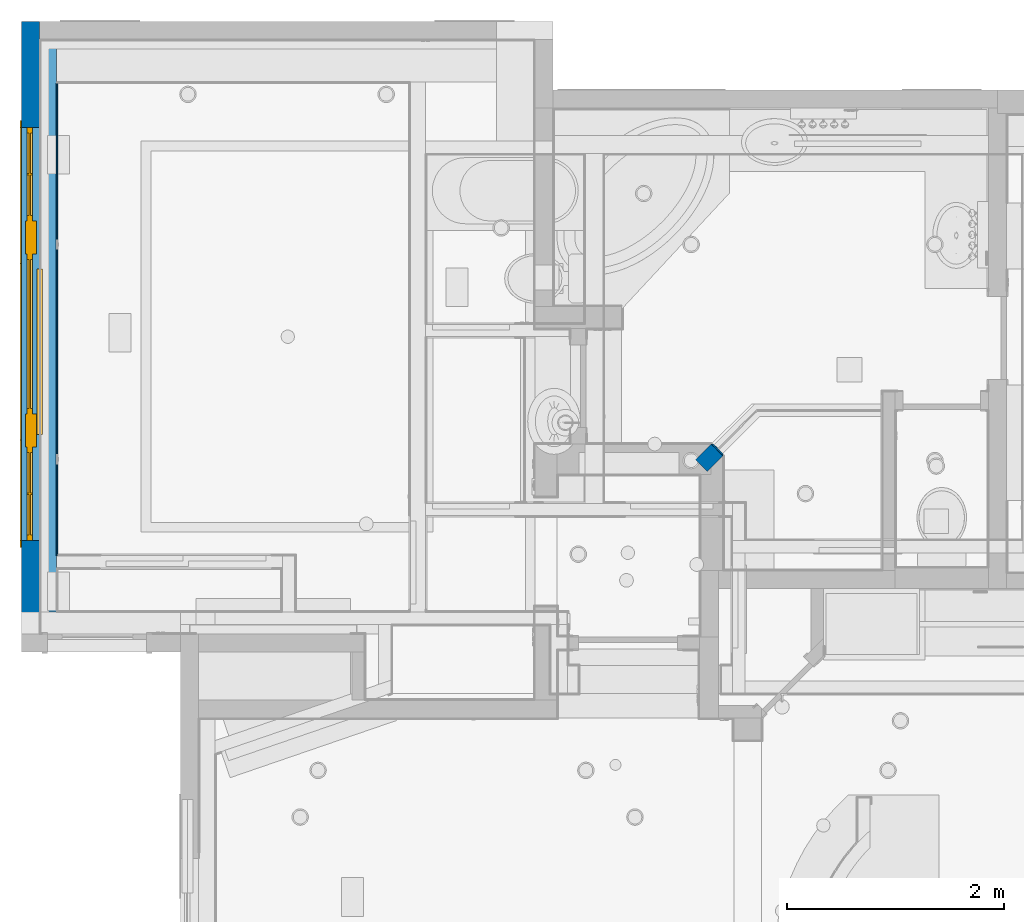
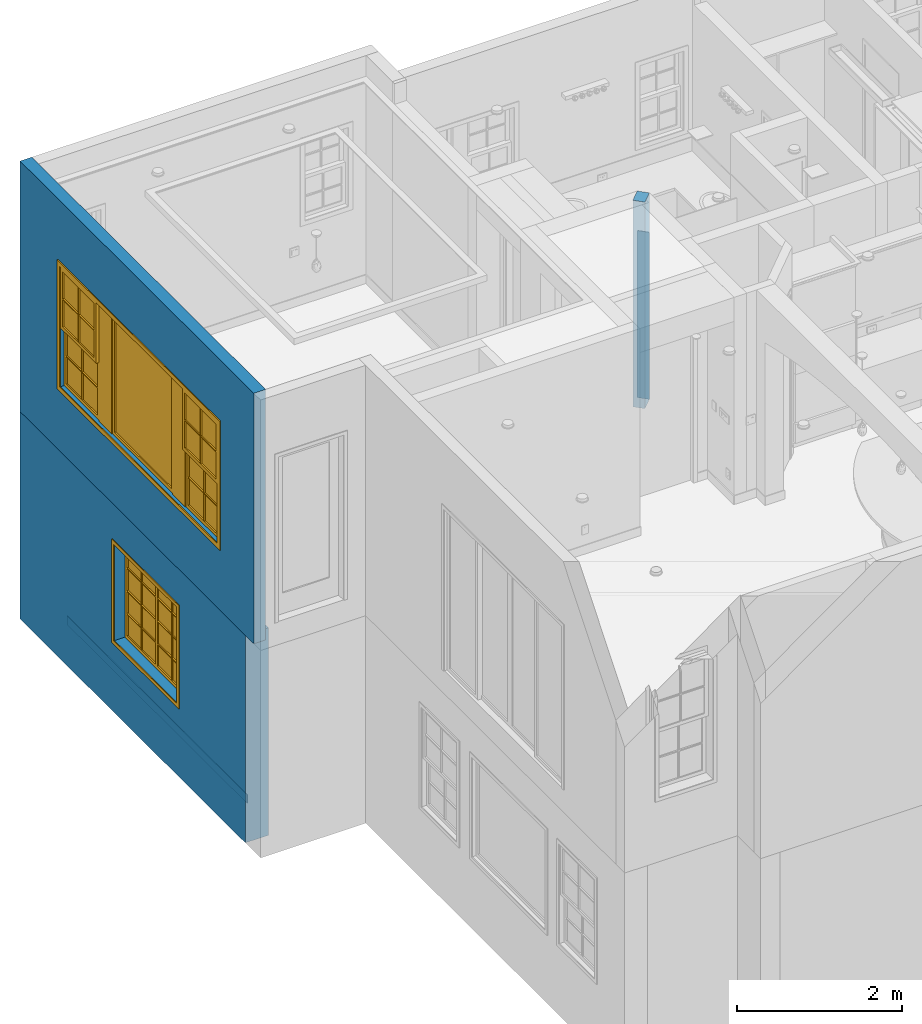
# One storey, part 10 of 81: 5 walls, 2 windows, 2 openings.
"""IFC2X3 building model written with IfcOpenShell, lengths in feet."""

from ifc_helpers import new_model, entity, si_unit, converted_unit, derived_unit, direction, frame, frame_2d, origin, origin_2d_with_axis, place, context, subcontext, project, spatial, polyline, rectangle, outline, extrude, clip, bounded_halfspace, source, transform, mapped, material, material_list, layer, layer_set, layer_usage, type_object, type_shapes, element, fill, save


model = new_model("IFC2X3")

# Units and contexts
model_context = context("Model", 3, precision=0.0001, world=origin(), true_north=direction((6.12303176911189e-17, 1.0)))
body_context = subcontext(model_context, "Body", "Model", "MODEL_VIEW")
ifc_project = project(units=[converted_unit("LENGTHUNIT", "FOOT", entity("IfcRatioMeasure", 0.3048), si_unit("LENGTHUNIT", "METRE"), dimensions=[1, 0, 0, 0, 0, 0, 0]), converted_unit("AREAUNIT", "SQUARE FOOT", entity("IfcRatioMeasure", 0.09290304), si_unit("AREAUNIT", "SQUARE_METRE"), dimensions=[2, 0, 0, 0, 0, 0, 0]), converted_unit("VOLUMEUNIT", "CUBIC FOOT", entity("IfcRatioMeasure", 0.028316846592), si_unit("VOLUMEUNIT", "CUBIC_METRE"), dimensions=[3, 0, 0, 0, 0, 0, 0]), converted_unit("PLANEANGLEUNIT", "DEGREE", entity("IfcRatioMeasure", 0.0174532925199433), si_unit("PLANEANGLEUNIT", "RADIAN"), dimensions=[0, 0, 0, 0, 0, 0, 0]), si_unit("MASSUNIT", "GRAM", prefix="KILO"), derived_unit("MASSDENSITYUNIT", [(si_unit("MASSUNIT", "GRAM", prefix="KILO"), 1), (si_unit("LENGTHUNIT", "METRE"), -3)]), derived_unit("MOMENTOFINERTIAUNIT", [(si_unit("LENGTHUNIT", "METRE"), 4)]), si_unit("TIMEUNIT", "SECOND"), si_unit("FREQUENCYUNIT", "HERTZ"), si_unit("THERMODYNAMICTEMPERATUREUNIT", "DEGREE_CELSIUS"), derived_unit("THERMALTRANSMITTANCEUNIT", [(si_unit("MASSUNIT", "GRAM", prefix="KILO"), 1), (si_unit("THERMODYNAMICTEMPERATUREUNIT", "KELVIN"), -1), (si_unit("TIMEUNIT", "SECOND"), -3)]), derived_unit("VOLUMETRICFLOWRATEUNIT", [(si_unit("LENGTHUNIT", "METRE"), 3), (si_unit("TIMEUNIT", "SECOND"), -1)]), si_unit("ELECTRICCURRENTUNIT", "AMPERE"), si_unit("ELECTRICVOLTAGEUNIT", "VOLT"), si_unit("POWERUNIT", "WATT"), si_unit("FORCEUNIT", "NEWTON"), si_unit("ILLUMINANCEUNIT", "LUX"), si_unit("LUMINOUSFLUXUNIT", "LUMEN"), si_unit("LUMINOUSINTENSITYUNIT", "CANDELA"), derived_unit("USERDEFINED", [(si_unit("MASSUNIT", "GRAM", prefix="KILO"), -1), (si_unit("LENGTHUNIT", "METRE"), -2), (si_unit("TIMEUNIT", "SECOND"), 3), (si_unit("LUMINOUSFLUXUNIT", "LUMEN"), 1)]), derived_unit("LINEARVELOCITYUNIT", [(si_unit("LENGTHUNIT", "METRE"), 1), (si_unit("TIMEUNIT", "SECOND"), -1)]), si_unit("PRESSUREUNIT", "PASCAL"), derived_unit("USERDEFINED", [(si_unit("LENGTHUNIT", "METRE"), -2), (si_unit("MASSUNIT", "GRAM", prefix="KILO"), 1), (si_unit("TIMEUNIT", "SECOND"), -2)]), derived_unit("LINEARFORCEUNIT", [(si_unit("MASSUNIT", "GRAM", prefix="KILO"), 1), (si_unit("LENGTHUNIT", "METRE"), 1), (si_unit("TIMEUNIT", "SECOND"), -2), (si_unit("LENGTHUNIT", "METRE"), -1)]), derived_unit("PLANARFORCEUNIT", [(si_unit("MASSUNIT", "GRAM", prefix="KILO"), 1), (si_unit("LENGTHUNIT", "METRE"), 1), (si_unit("TIMEUNIT", "SECOND"), -2), (si_unit("LENGTHUNIT", "METRE"), -2)])], contexts=[model_context])

# Site, building, storey
site_placement = place(None, origin())
site = spatial("IfcSite", under=ifc_project, at=site_placement, Name="Default", CompositionType="ELEMENT")
building_placement = place(site_placement, origin())
building = spatial("IfcBuilding", under=site, at=building_placement, CompositionType="ELEMENT")
storey_placement = place(building_placement, origin())
storey = spatial("IfcBuildingStorey", under=building, at=storey_placement, Name="First floor", CompositionType="ELEMENT", Elevation=0.0)

# Wall, opening, window
ifc_material_1 = material(Name="Default New Material")
ifc_layer_1 = layer(ifc_material_1, 0.541666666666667)
ifc_layer_set_1 = layer_set([ifc_layer_1], Name="Basic Wall:Wall_6.5\"")
ifc_layer_usage_1 = layer_usage(ifc_layer_set_1, "AXIS2", "NEGATIVE", 0.270833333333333)
wall_type_1 = type_object("IfcWallType", Name="Basic Wall:Wall_6.5\"", PredefinedType="STANDARD", material=ifc_layer_set_1)
wall_1_placement = place(storey_placement, frame((-21.5833333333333, 31.5833333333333, 9.54166666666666), z_axis=(0.0, 0.0, 1.0), x_axis=(0.0, 1.0, 0.0)))
wall_1 = element("IfcWallStandardCase", 1, at=wall_1_placement, inside=storey, type_object=wall_type_1, material=ifc_layer_usage_1, Name="Basic Wall:Wall_6.5\"", ObjectType="Basic Wall:Wall_6.5\"", context=body_context, shape_type="SweptSolid", body=[
    extrude(rectangle(XDim=18.5416666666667, YDim=0.541666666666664, at=frame_2d((9.27083333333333, 4.16333634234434e-16), x_axis=(-1.0, 0.0))), origin(), (0.0, 0.0, 1.0), 12.125),
])
opening_1_placement = place(wall_1_placement, frame((2.83333333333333, -0.270833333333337, 3.14583333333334)))
opening_1 = element("IfcOpeningElement", 2, at=opening_1_placement, cuts=wall_1, Name="Window_3:12'-6\" X 5'-10\":1", ObjectType="Opening", context=body_context, shape_type="SweptSolid", body=[
    extrude(rectangle(XDim=5.83333333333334, YDim=12.5, at=frame_2d((2.91666666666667, 6.24999999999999), x_axis=(-1.0, 0.0))), frame((0.0, 0.0, 0.0), z_axis=(0.0, 1.0, 0.0), x_axis=(0.0, 0.0, 1.0)), (0.0, 0.0, 1.0), 0.541666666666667),
])
ifc_material_2 = material(Name="Glass")
ifc_material_list_1 = material_list([ifc_material_2, ifc_material_1])
ifc_material_3 = material(Name="Sash")
ifc_material_list_2 = material_list([ifc_material_2, ifc_material_3, ifc_material_1, ifc_material_1])
window_style_1 = type_object("IfcWindowStyle", Name="Window_3:12'-6\" X 5'-10\"", ConstructionType="NOTDEFINED", OperationType="NOTDEFINED", ParameterTakesPrecedence=False, Sizeable=False, material=ifc_material_list_2)
shared_shape_1 = source(origin(), body_context, "Body", "SweptSolid", [
    extrude(rectangle(XDim=1.22916666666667, YDim=0.0435871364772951, at=origin_2d_with_axis()), frame((11.71875, 0.459293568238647, 4.35937499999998)), (0.0, 0.0, 1.0), 1.30729166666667),
    extrude(rectangle(XDim=1.22916666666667, YDim=0.0435871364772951, at=frame_2d((-4.44089209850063e-16, 0.0), x_axis=(1.0, 0.0))), frame((0.781250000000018, 0.459293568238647, 4.359375)), (0.0, 0.0, 1.0), 1.30729166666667),
    extrude(rectangle(XDim=1.22916666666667, YDim=0.0435871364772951, at=frame_2d((4.44089209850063e-16, 0.0), x_axis=(1.0, 0.0))), frame((2.05208333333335, 0.459293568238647, 4.35937499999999)), (0.0, 0.0, 1.0), 1.30729166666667),
    extrude(rectangle(XDim=1.22916666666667, YDim=0.0435871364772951, at=origin_2d_with_axis()), frame((10.4479166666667, 0.459293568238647, 4.35937499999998)), (0.0, 0.0, 1.0), 1.30729166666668),
    extrude(rectangle(XDim=1.22916666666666, YDim=0.0435871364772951, at=origin_2d_with_axis()), frame((11.71875, 0.459293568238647, 3.01041666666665)), (0.0, 0.0, 1.0), 1.30729166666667),
    extrude(rectangle(XDim=1.22916666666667, YDim=0.0435871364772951, at=origin_2d_with_axis()), frame((0.781250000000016, 0.459293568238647, 3.01041666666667)), (0.0, 0.0, 1.0), 1.30729166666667),
    extrude(rectangle(XDim=1.22916666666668, YDim=0.0435871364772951, at=origin_2d_with_axis()), frame((2.05208333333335, 0.459293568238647, 3.01041666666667)), (0.0, 0.0, 1.0), 1.30729166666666),
    extrude(rectangle(XDim=1.22916666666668, YDim=0.0435871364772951, at=origin_2d_with_axis()), frame((10.4479166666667, 0.459293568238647, 3.01041666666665)), (0.0, 0.0, 1.0), 1.30729166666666),
    extrude(outline(polyline([(-1.49479166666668, -1.41666666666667), (1.49479166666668, -1.41666666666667), (1.49479166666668, 1.41666666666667), (-1.49479166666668, 1.41666666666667), (-1.49479166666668, -1.41666666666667)]), holes=[polyline([(-0.0208333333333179, -0.0208333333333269), (-0.0208333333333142, -1.25), (-1.32812499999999, -1.25), (-1.32812499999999, -0.0208333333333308), (-0.0208333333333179, -0.0208333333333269)]), polyline([(-1.32812499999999, 0.0208333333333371), (-1.32812499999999, 1.25000000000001), (-0.0208333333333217, 1.25000000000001), (-0.020833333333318, 0.0208333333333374), (-1.32812499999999, 0.0208333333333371)]), polyline([(1.32812500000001, 0.0208333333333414), (0.0208333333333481, 0.0208333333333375), (0.0208333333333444, 1.25000000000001), (1.32812500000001, 1.25000000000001), (1.32812500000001, 0.0208333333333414)]), polyline([(0.0208333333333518, -1.25), (0.0208333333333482, -0.0208333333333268), (1.32812500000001, -0.0208333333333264), (1.32812500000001, -1.25), (0.0208333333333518, -1.25)])]), frame((11.0833333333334, 0.541666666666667, 4.33854166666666), z_axis=(0.0, -1.0, 0.0), x_axis=(0.0, 0.0, -1.0)), (0.0, 0.0, 1.0), 0.166666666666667),
    extrude(outline(polyline([(-1.41666666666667, -1.49479166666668), (1.41666666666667, -1.49479166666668), (1.41666666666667, 1.49479166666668), (-1.41666666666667, 1.49479166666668), (-1.41666666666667, -1.49479166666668)]), holes=[polyline([(0.0208333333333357, -1.32812499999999), (0.0208333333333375, -0.0208333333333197), (1.25000000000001, -0.0208333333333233), (1.25000000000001, -1.32812499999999), (0.0208333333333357, -1.32812499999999)]), polyline([(0.0208333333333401, 1.32812500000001), (1.25000000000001, 1.32812500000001), (1.25000000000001, 0.0208333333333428), (0.0208333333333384, 0.0208333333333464), (0.0208333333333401, 1.32812500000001)]), polyline([(-1.25, 0.0208333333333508), (-1.25, 1.32812500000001), (-0.0208333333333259, 1.32812500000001), (-0.0208333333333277, 0.0208333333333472), (-1.25, 0.0208333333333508)]), polyline([(-0.0208333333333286, -0.0208333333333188), (-0.0208333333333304, -1.32812499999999), (-1.25, -1.32812499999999), (-1.25, -0.0208333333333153), (-0.0208333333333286, -0.0208333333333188)])]), frame((1.41666666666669, 0.541666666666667, 4.33854166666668), z_axis=(0.0, -1.0, 0.0), x_axis=(-1.0, 0.0, 0.0)), (0.0, 0.0, 1.0), 0.166666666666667),
    extrude(rectangle(XDim=1.00000000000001, YDim=0.333333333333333, at=origin_2d_with_axis()), frame((3.33333333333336, 0.25, 0.0)), (0.0, 0.0, 1.0), 5.83333333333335),
    extrude(rectangle(XDim=1.00000000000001, YDim=0.333333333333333, at=origin_2d_with_axis()), frame((9.16666666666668, 0.25, 0.0)), (0.0, 0.0, 1.0), 5.83333333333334),
    extrude(rectangle(XDim=1.22916666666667, YDim=0.0416666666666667, at=origin_2d_with_axis()), frame((11.71875, 0.291666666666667, 1.52604166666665), z_axis=(0.0, 0.0, 1.0), x_axis=(-1.0, 0.0, 0.0)), (0.0, 0.0, 1.0), 1.31770833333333),
    extrude(rectangle(XDim=1.22916666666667, YDim=0.0416666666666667, at=frame_2d((-8.88178419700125e-16, 0.0), x_axis=(1.0, 0.0))), frame((0.781250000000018, 0.291666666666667, 0.166666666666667), z_axis=(0.0, 0.0, 1.0), x_axis=(-1.0, 0.0, 0.0)), (0.0, 0.0, 1.0), 1.31770833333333),
    extrude(rectangle(XDim=1.22916666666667, YDim=0.0416666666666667, at=origin_2d_with_axis()), frame((2.05208333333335, 0.291666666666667, 0.166666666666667), z_axis=(0.0, 0.0, 1.0), x_axis=(-1.0, 0.0, 0.0)), (0.0, 0.0, 1.0), 1.31770833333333),
    extrude(rectangle(XDim=1.22916666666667, YDim=0.0416666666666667, at=origin_2d_with_axis()), frame((11.71875, 0.291666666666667, 0.16666666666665), z_axis=(0.0, 0.0, 1.0), x_axis=(-1.0, 0.0, 0.0)), (0.0, 0.0, 1.0), 1.31770833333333),
    extrude(rectangle(XDim=1.22916666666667, YDim=0.0416666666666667, at=origin_2d_with_axis()), frame((10.4479166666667, 0.291666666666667, 0.166666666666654), z_axis=(0.0, 0.0, 1.0), x_axis=(-1.0, 0.0, 0.0)), (0.0, 0.0, 1.0), 1.31770833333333),
    extrude(rectangle(XDim=4.49999999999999, YDim=0.0416666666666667, at=origin_2d_with_axis()), frame((6.25000000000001, 0.291666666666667, 0.166666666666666), z_axis=(0.0, 0.0, 1.0), x_axis=(-1.0, 0.0, 0.0)), (0.0, 0.0, 1.0), 5.5),
    extrude(rectangle(XDim=1.22916666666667, YDim=0.0416666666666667, at=frame_2d((-4.44089209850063e-16, 0.0), x_axis=(1.0, 0.0))), frame((0.78125000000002, 0.291666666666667, 1.52604166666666), z_axis=(0.0, 0.0, 1.0), x_axis=(-1.0, 0.0, 0.0)), (0.0, 0.0, 1.0), 1.31770833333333),
    extrude(rectangle(XDim=1.22916666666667, YDim=0.0416666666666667, at=frame_2d((2.22044604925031e-16, 0.0), x_axis=(1.0, 0.0))), frame((2.05208333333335, 0.291666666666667, 1.52604166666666), z_axis=(0.0, 0.0, 1.0), x_axis=(-1.0, 0.0, 0.0)), (0.0, 0.0, 1.0), 1.31770833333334),
    extrude(rectangle(XDim=1.22916666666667, YDim=0.0416666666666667, at=origin_2d_with_axis()), frame((10.4479166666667, 0.291666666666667, 1.52604166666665), z_axis=(0.0, 0.0, 1.0), x_axis=(-1.0, 0.0, 0.0)), (0.0, 0.0, 1.0), 1.31770833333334),
    extrude(outline(polyline([(-1.50520833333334, -1.41666666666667), (1.50520833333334, -1.41666666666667), (1.50520833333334, 1.41666666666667), (-1.50520833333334, 1.41666666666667), (-1.50520833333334, -1.41666666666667)]), holes=[polyline([(1.33854166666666, 0.0208333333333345), (0.0208333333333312, 0.020833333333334), (0.020833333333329, 1.25), (1.33854166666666, 1.25), (1.33854166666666, 0.0208333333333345)]), polyline([(-1.33854166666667, 0.0208333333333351), (-1.33854166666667, 1.25), (-0.020833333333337, 1.25), (-0.0208333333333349, 0.0208333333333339), (-1.33854166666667, 0.0208333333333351)]), polyline([(-0.0208333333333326, -1.25), (-1.33854166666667, -1.25), (-1.33854166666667, -0.0208333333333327), (-0.0208333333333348, -0.0208333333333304), (-0.0208333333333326, -1.25)]), polyline([(0.0208333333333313, -0.0208333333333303), (1.33854166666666, -0.0208333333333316), (1.33854166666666, -1.25), (0.0208333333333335, -1.25), (0.0208333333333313, -0.0208333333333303)])]), frame((11.0833333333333, 0.375, 1.50520833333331), z_axis=(0.0, -1.0, 0.0), x_axis=(0.0, 0.0, -1.0)), (0.0, 0.0, 1.0), 0.166666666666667),
    extrude(outline(polyline([(-1.41666666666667, -1.50520833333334), (1.41666666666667, -1.50520833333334), (1.41666666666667, 1.50520833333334), (-1.41666666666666, 1.50520833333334), (-1.41666666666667, -1.50520833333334)]), holes=[polyline([(-0.0208333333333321, 0.0208333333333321), (-1.25, 0.0208333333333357), (-1.25, 1.33854166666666), (-0.0208333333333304, 1.33854166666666), (-0.0208333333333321, 0.0208333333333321)]), polyline([(0.0208333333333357, 1.33854166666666), (1.25, 1.33854166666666), (1.25, 0.0208333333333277), (0.0208333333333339, 0.0208333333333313), (0.0208333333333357, 1.33854166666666)]), polyline([(0.0208333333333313, -1.33854166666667), (0.020833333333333, -0.0208333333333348), (1.25, -0.0208333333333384), (1.25, -1.33854166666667), (0.0208333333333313, -1.33854166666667)]), polyline([(-1.25, -0.0208333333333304), (-0.020833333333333, -0.0208333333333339), (-0.0208333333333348, -1.33854166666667), (-1.25, -1.33854166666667), (-1.25, -0.0208333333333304)])]), frame((1.41666666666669, 0.375, 1.50520833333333), z_axis=(0.0, -1.0, 0.0), x_axis=(-1.0, 0.0, 0.0)), (0.0, 0.0, 1.0), 0.166666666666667),
    extrude(outline(polyline([(-2.41666666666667, -2.91666666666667), (2.41666666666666, -2.91666666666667), (2.41666666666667, 2.91666666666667), (-2.41666666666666, 2.91666666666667), (-2.41666666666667, -2.91666666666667)]), holes=[polyline([(2.25, 2.75), (2.24999999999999, -2.75), (-2.25, -2.75), (-2.24999999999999, 2.75), (2.25, 2.75)])]), frame((6.25000000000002, 0.375, 2.91666666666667), z_axis=(0.0, -1.0, 0.0), x_axis=(1.0, 0.0, 0.0)), (0.0, 0.0, 1.0), 0.166666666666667),
    extrude(outline(polyline([(-6.45833333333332, -3.125), (6.45833333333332, -3.125), (6.45833333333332, 3.125), (-6.45833333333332, 3.125), (-6.45833333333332, -3.125)]), holes=[polyline([(-6.24999999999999, -2.91666666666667), (-6.24999999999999, 2.91666666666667), (6.24999999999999, 2.91666666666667), (6.24999999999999, -2.91666666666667), (-6.24999999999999, -2.91666666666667)])]), frame((6.25000000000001, 0.0, 2.91666666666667), z_axis=(0.0, -1.0, 0.0), x_axis=(1.0, 0.0, 0.0)), (0.0, 0.0, 1.0), 0.0416666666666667),
    extrude(outline(polyline([(-6.45833333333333, -3.125), (6.45833333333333, -3.125), (6.45833333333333, 3.125), (-6.45833333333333, 3.125), (-6.45833333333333, -3.125)]), holes=[polyline([(-6.24999999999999, -2.91666666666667), (-6.24999999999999, 2.91666666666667), (6.24999999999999, 2.91666666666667), (6.24999999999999, -2.91666666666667), (-6.24999999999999, -2.91666666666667)])]), frame((6.25000000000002, 0.583333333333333, 2.91666666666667), z_axis=(0.0, -1.0, 0.0), x_axis=(1.0, 0.0, 0.0)), (0.0, 0.0, 1.0), 0.0416666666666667),
])
type_shapes(window_style_1, [shared_shape_1])
window_1_placement = place(opening_1_placement, origin())
window_1 = element("IfcWindow", 3, at=window_1_placement, inside=storey, type_object=window_style_1, material=ifc_material_list_1, Name="Window_3:12'-6\" X 5'-10\"", ObjectType="Window_3:12'-6\" X 5'-10\"", OverallHeight=5.83333333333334, OverallWidth=12.5, context=body_context, shape_type="MappedRepresentation", body=[
    mapped(shared_shape_1, transform((0.0, 0.0, 0.0), scale=1.0)),
])
fill(opening_1, window_1)

# Wall
ifc_layer_2 = layer(ifc_material_1, 0.666666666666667)
ifc_layer_set_2 = layer_set([ifc_layer_2], Name="Basic Wall:Wall_8\"")
ifc_layer_usage_2 = layer_usage(ifc_layer_set_2, "AXIS2", "POSITIVE", -0.333333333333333)
wall_type_2 = type_object("IfcWallType", Name="Basic Wall:Wall_8\"", PredefinedType="STANDARD", material=ifc_layer_set_2)
wall_2_placement = place(storey_placement, frame((-1.21486892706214, 37.0976310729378, 10.6666666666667), z_axis=(0.0, 0.0, 1.0), x_axis=(0.707106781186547, -0.707106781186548, 0.0)))
element("IfcWallStandardCase", 4, at=wall_2_placement, inside=storey, type_object=wall_type_2, material=ifc_layer_usage_2, Name="Basic Wall:Wall_8\"", ObjectType="Basic Wall:Wall_8\"", context=body_context, shape_type="SweptSolid", body=[
    extrude(rectangle(XDim=0.500867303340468, YDim=0.666666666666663, at=frame_2d((0.250433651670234, 2.4980018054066e-16), x_axis=(-1.0, 0.0))), origin(), (0.0, 0.0, 1.0), 10.0),
])

# Wall, opening, window
ifc_layer_3 = layer(ifc_material_1, 1.0625)
ifc_layer_set_3 = layer_set([ifc_layer_3], Name="Basic Wall:Wall_1' 3/4\"")
ifc_layer_usage_3 = layer_usage(ifc_layer_set_3, "AXIS2", "NEGATIVE", 0.53125)
wall_type_3 = type_object("IfcWallType", Name="Basic Wall:Wall_1' 3/4\"", PredefinedType="STANDARD", material=ifc_layer_set_3)
wall_3_placement = place(storey_placement, frame((-21.3229166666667, 32.25, -0.5), z_axis=(0.0, 0.0, 1.0), x_axis=(0.0, 1.0, 0.0)))
wall_3 = element("IfcWallStandardCase", 5, at=wall_3_placement, inside=storey, type_object=wall_type_3, material=ifc_layer_usage_3, Name="Basic Wall:Wall_1' 3/4\"", ObjectType="Basic Wall:Wall_1' 3/4\"", context=body_context, shape_type="SweptSolid", body=[
    extrude(rectangle(XDim=17.875, YDim=1.0625, at=frame_2d((8.93750000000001, -1.66533453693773e-16), x_axis=(-1.0, 0.0))), origin(), (0.0, 0.0, 1.0), 10.0416666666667),
])
opening_2_placement = place(wall_3_placement, frame((10.375, 0.531249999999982, 3.5)))
opening_2 = element("IfcOpeningElement", 6, at=opening_2_placement, cuts=wall_3, Name="Window_7:5'-0\" X 4'-8\":1", ObjectType="Opening", context=body_context, shape_type="SweptSolid", body=[
    extrude(rectangle(XDim=4.66666666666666, YDim=5.0, at=frame_2d((2.33333333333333, 2.5), x_axis=(-1.0, 0.0))), frame((0.0, 0.0, 0.0), z_axis=(0.0, -1.0, 0.0), x_axis=(0.0, 0.0, 1.0)), (0.0, 0.0, 1.0), 1.0625),
])
ifc_material_list_3 = material_list([ifc_material_2, ifc_material_1])
ifc_material_list_4 = material_list([ifc_material_2, ifc_material_1, ifc_material_1])
window_style_2 = type_object("IfcWindowStyle", Name="Window_7:5'-0\" X 4'-8\"", ConstructionType="NOTDEFINED", OperationType="NOTDEFINED", ParameterTakesPrecedence=False, Sizeable=False, material=ifc_material_list_4)
shared_shape_2 = source(origin(), body_context, "Body", "SweptSolid", [
    extrude(rectangle(XDim=0.0416666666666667, YDim=1.10416666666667, at=origin_2d_with_axis()), frame((4.28124999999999, 0.552083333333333, 3.45833333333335), z_axis=(0.0, 0.0, 1.0), x_axis=(0.0, 1.0, 0.0)), (0.0, 0.0, 1.0), 1.04166666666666),
    extrude(rectangle(XDim=0.0416666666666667, YDim=1.10416666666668, at=origin_2d_with_axis()), frame((4.28124999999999, 0.552083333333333, 0.166666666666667), z_axis=(0.0, 0.0, 1.0), x_axis=(0.0, 1.0, 0.0)), (0.0, 0.0, 1.0), 1.04166666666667),
    extrude(rectangle(XDim=0.0416666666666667, YDim=1.10416666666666, at=origin_2d_with_axis()), frame((3.13541666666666, 0.552083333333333, 0.166666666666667), z_axis=(0.0, 0.0, 1.0), x_axis=(0.0, 1.0, 0.0)), (0.0, 0.0, 1.0), 1.04166666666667),
    extrude(rectangle(XDim=0.0416666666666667, YDim=1.10416666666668, at=origin_2d_with_axis()), frame((1.86458333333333, 0.552083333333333, 0.166666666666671), z_axis=(0.0, 0.0, 1.0), x_axis=(0.0, 1.0, 0.0)), (0.0, 0.0, 1.0), 1.04166666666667),
    extrude(rectangle(XDim=0.0416666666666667, YDim=1.10416666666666, at=origin_2d_with_axis()), frame((0.718749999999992, 0.552083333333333, 0.166666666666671), z_axis=(0.0, 0.0, 1.0), x_axis=(0.0, 1.0, 0.0)), (0.0, 0.0, 1.0), 1.04166666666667),
    extrude(rectangle(XDim=0.0416666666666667, YDim=1.10416666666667, at=origin_2d_with_axis()), frame((0.718749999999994, 0.552083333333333, 3.45833333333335), z_axis=(0.0, 0.0, 1.0), x_axis=(0.0, 1.0, 0.0)), (0.0, 0.0, 1.0), 1.04166666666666),
    extrude(rectangle(XDim=0.0416666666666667, YDim=1.10416666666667, at=origin_2d_with_axis()), frame((4.28124999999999, 0.552083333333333, 2.35416666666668), z_axis=(0.0, 0.0, 1.0), x_axis=(0.0, 1.0, 0.0)), (0.0, 0.0, 1.0), 1.0625),
    extrude(rectangle(XDim=0.0416666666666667, YDim=1.10416666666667, at=origin_2d_with_axis()), frame((4.28124999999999, 0.552083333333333, 1.25), z_axis=(0.0, 0.0, 1.0), x_axis=(0.0, 1.0, 0.0)), (0.0, 0.0, 1.0), 1.06250000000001),
    extrude(rectangle(XDim=0.0416666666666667, YDim=1.10416666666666, at=origin_2d_with_axis()), frame((3.13541666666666, 0.552083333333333, 1.25000000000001), z_axis=(0.0, 0.0, 1.0), x_axis=(0.0, 1.0, 0.0)), (0.0, 0.0, 1.0), 1.06250000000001),
    extrude(rectangle(XDim=0.0416666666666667, YDim=1.10416666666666, at=origin_2d_with_axis()), frame((3.13541666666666, 0.552083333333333, 2.35416666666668), z_axis=(0.0, 0.0, 1.0), x_axis=(0.0, 1.0, 0.0)), (0.0, 0.0, 1.0), 1.0625),
    extrude(rectangle(XDim=0.0416666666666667, YDim=1.10416666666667, at=origin_2d_with_axis()), frame((3.13541666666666, 0.552083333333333, 3.45833333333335), z_axis=(0.0, 0.0, 1.0), x_axis=(0.0, 1.0, 0.0)), (0.0, 0.0, 1.0), 1.04166666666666),
    extrude(rectangle(XDim=0.0416666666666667, YDim=1.10416666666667, at=origin_2d_with_axis()), frame((1.86458333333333, 0.552083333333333, 3.45833333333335), z_axis=(0.0, 0.0, 1.0), x_axis=(0.0, 1.0, 0.0)), (0.0, 0.0, 1.0), 1.04166666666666),
    extrude(rectangle(XDim=0.0416666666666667, YDim=1.10416666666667, at=origin_2d_with_axis()), frame((1.86458333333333, 0.552083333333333, 2.35416666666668), z_axis=(0.0, 0.0, 1.0), x_axis=(0.0, 1.0, 0.0)), (0.0, 0.0, 1.0), 1.0625),
    extrude(rectangle(XDim=0.0416666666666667, YDim=1.10416666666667, at=origin_2d_with_axis()), frame((1.86458333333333, 0.552083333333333, 1.25000000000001), z_axis=(0.0, 0.0, 1.0), x_axis=(0.0, 1.0, 0.0)), (0.0, 0.0, 1.0), 1.06250000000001),
    extrude(rectangle(XDim=0.0416666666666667, YDim=1.10416666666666, at=origin_2d_with_axis()), frame((0.718749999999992, 0.552083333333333, 1.25000000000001), z_axis=(0.0, 0.0, 1.0), x_axis=(0.0, 1.0, 0.0)), (0.0, 0.0, 1.0), 1.06250000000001),
    extrude(rectangle(XDim=0.0416666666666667, YDim=1.10416666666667, at=origin_2d_with_axis()), frame((0.718749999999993, 0.552083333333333, 2.35416666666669), z_axis=(0.0, 0.0, 1.0), x_axis=(0.0, 1.0, 0.0)), (0.0, 0.0, 1.0), 1.0625),
    extrude(outline(polyline([(-2.5, -2.33333333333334), (2.5, -2.33333333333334), (2.5, 2.33333333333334), (-2.5, 2.33333333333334), (-2.5, -2.33333333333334)]), holes=[polyline([(1.22916666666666, 2.16666666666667), (2.33333333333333, 2.16666666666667), (2.33333333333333, 1.12500000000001), (1.22916666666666, 1.125), (1.22916666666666, 2.16666666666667)]), polyline([(1.18749999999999, 1.125), (0.083333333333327, 1.125), (0.083333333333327, 2.16666666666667), (1.18749999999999, 2.16666666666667), (1.18749999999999, 1.125)]), polyline([(-1.18750000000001, 2.16666666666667), (-0.0833333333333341, 2.16666666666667), (-0.0833333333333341, 1.125), (-1.18750000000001, 1.125), (-1.18750000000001, 2.16666666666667)]), polyline([(-1.22916666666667, 1.125), (-2.33333333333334, 1.125), (-2.33333333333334, 2.16666666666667), (-1.22916666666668, 2.16666666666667), (-1.22916666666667, 1.125)]), polyline([(1.22916666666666, -2.16666666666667), (1.22916666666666, -1.12500000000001), (2.33333333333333, -1.12500000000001), (2.33333333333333, -2.16666666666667), (1.22916666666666, -2.16666666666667)]), polyline([(0.083333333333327, -1.12500000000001), (1.18749999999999, -1.12500000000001), (1.1875, -2.16666666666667), (0.083333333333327, -2.16666666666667), (0.083333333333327, -1.12500000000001)]), polyline([(1.22916666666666, -0.0208333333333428), (2.33333333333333, -0.0208333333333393), (2.33333333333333, -1.08333333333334), (1.22916666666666, -1.08333333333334), (1.22916666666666, -0.0208333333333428)]), polyline([(1.22916666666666, 1.08333333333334), (2.33333333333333, 1.08333333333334), (2.33333333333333, 0.0208333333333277), (1.22916666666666, 0.0208333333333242), (1.22916666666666, 1.08333333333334)]), polyline([(0.083333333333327, 1.08333333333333), (1.18749999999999, 1.08333333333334), (1.18749999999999, 0.0208333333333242), (0.083333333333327, 0.0208333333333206), (0.083333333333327, 1.08333333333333)]), polyline([(0.083333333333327, -0.0208333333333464), (1.18749999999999, -0.0208333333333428), (1.18749999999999, -1.08333333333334), (0.083333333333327, -1.08333333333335), (0.083333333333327, -0.0208333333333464)]), polyline([(-1.1875, -2.16666666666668), (-1.1875, -1.12500000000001), (-0.0833333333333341, -1.12500000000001), (-0.0833333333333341, -2.16666666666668), (-1.1875, -2.16666666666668)]), polyline([(-2.33333333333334, -1.12500000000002), (-1.22916666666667, -1.12500000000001), (-1.22916666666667, -2.16666666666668), (-2.33333333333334, -2.16666666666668), (-2.33333333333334, -1.12500000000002)]), polyline([(-1.18750000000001, -0.0208333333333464), (-0.0833333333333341, -0.0208333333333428), (-0.0833333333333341, -1.08333333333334), (-1.1875, -1.08333333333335), (-1.18750000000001, -0.0208333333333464)]), polyline([(-1.18750000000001, 1.08333333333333), (-0.0833333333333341, 1.08333333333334), (-0.0833333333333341, 0.0208333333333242), (-1.18750000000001, 0.0208333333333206), (-1.18750000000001, 1.08333333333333)]), polyline([(-2.33333333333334, 1.08333333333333), (-1.22916666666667, 1.08333333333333), (-1.22916666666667, 0.0208333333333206), (-2.33333333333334, 0.0208333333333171), (-2.33333333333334, 1.08333333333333)]), polyline([(-2.33333333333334, -0.0208333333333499), (-1.22916666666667, -0.0208333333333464), (-1.22916666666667, -1.08333333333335), (-2.33333333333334, -1.08333333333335), (-2.33333333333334, -0.0208333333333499)])]), frame((2.5, 0.46875, 2.33333333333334), z_axis=(0.0, 1.0, 0.0), x_axis=(1.0, 0.0, 0.0)), (0.0, 0.0, 1.0), 0.166666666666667),
    extrude(outline(polyline([(-2.66666666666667, -2.5), (2.66666666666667, -2.5), (2.66666666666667, 2.5), (-2.66666666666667, 2.5), (-2.66666666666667, -2.5)]), holes=[polyline([(-2.5, -2.33333333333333), (-2.5, 2.33333333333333), (2.5, 2.33333333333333), (2.5, -2.33333333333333), (-2.5, -2.33333333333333)])]), frame((2.5, 1.0625, 2.33333333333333), z_axis=(0.0, 1.0, 0.0), x_axis=(1.0, 0.0, 0.0)), (0.0, 0.0, 1.0), 0.0416666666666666),
    extrude(outline(polyline([(-2.66666666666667, -2.5), (2.66666666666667, -2.5), (2.66666666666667, 2.5), (-2.66666666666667, 2.5), (-2.66666666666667, -2.5)]), holes=[polyline([(2.5, 2.33333333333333), (2.5, -2.33333333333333), (-2.5, -2.33333333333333), (-2.5, 2.33333333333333), (2.5, 2.33333333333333)])]), frame((2.5, -0.0416666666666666, 2.33333333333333), z_axis=(0.0, 1.0, 0.0), x_axis=(1.0, 0.0, 0.0)), (0.0, 0.0, 1.0), 0.0416666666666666),
])
type_shapes(window_style_2, [shared_shape_2])
window_2_placement = place(opening_2_placement, frame((0.0, 0.0, 0.0), z_axis=(0.0, 0.0, 1.0), x_axis=(-1.0, 0.0, 0.0)))
window_2 = element("IfcWindow", 7, at=window_2_placement, inside=storey, type_object=window_style_2, material=ifc_material_list_3, Name="Window_7:5'-0\" X 4'-8\"", ObjectType="Window_7:5'-0\" X 4'-8\"", OverallHeight=4.66666666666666, OverallWidth=5.0, context=body_context, shape_type="MappedRepresentation", body=[
    mapped(shared_shape_2, transform((0.0, 0.0, 0.0), scale=1.0)),
])
fill(opening_2, window_2)

# Walls
ifc_layer_4 = layer(ifc_material_1, 0.0416666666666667)
ifc_layer_set_4 = layer_set([ifc_layer_4], Name="Basic Wall:Wall Border_T1")
ifc_layer_usage_4 = layer_usage(ifc_layer_set_4, "AXIS2", "POSITIVE", -0.0208333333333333)
wall_type_4 = type_object("IfcWallType", Name="Basic Wall:Wall Border_T1", PredefinedType="STANDARD", material=ifc_layer_set_4)
wall_4_placement = place(storey_placement, frame((-20.7708333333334, 33.9583333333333, 0.0), z_axis=(0.0, 0.0, 1.0), x_axis=(0.0, 1.0, 0.0)))
element("IfcWallStandardCase", 8, at=wall_4_placement, inside=storey, type_object=wall_type_4, material=ifc_layer_usage_4, Name="Basic Wall:Wall Border_T1", ObjectType="Basic Wall:Wall Border_T1", context=body_context, shape_type="Clipping", body=[
    clip(extrude(rectangle(XDim=14.2916666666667, YDim=0.0416666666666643, at=frame_2d((7.14583333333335, -3.64291929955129e-17), x_axis=(-1.0, 0.0))), origin(), (0.0, 0.0, 1.0), 0.416666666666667), bounded_halfspace(frame((14.2916666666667, -0.0208333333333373, 0.416666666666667), z_axis=(-1.0, 0.0, 0.0), x_axis=(0.0, -1.0, 0.0)), True, frame((14.2916666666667, -0.0208333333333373, 0.416666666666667), z_axis=(-1.0, 0.0, 0.0), x_axis=(0.0, -1.0, 0.0)), polyline([(0.0, 0.0), (-0.0416666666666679, 0.0), (-0.0416666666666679, -0.416666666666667), (0.0, -0.416666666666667), (0.0, 0.0)]))),
])
ifc_layer_usage_5 = layer_usage(ifc_layer_set_4, "AXIS2", "NEGATIVE", 0.0208333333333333)
wall_5_placement = place(storey_placement, frame((-0.610268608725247, 36.9938980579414, 10.6666666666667), z_axis=(0.0, 0.0, 1.0), x_axis=(-0.707106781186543, 0.707106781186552, 0.0)))
element("IfcWallStandardCase", 9, at=wall_5_placement, inside=storey, type_object=wall_type_4, material=ifc_layer_usage_5, Name="Basic Wall:Wall Border_T1", ObjectType="Basic Wall:Wall Border_T1", context=body_context, shape_type="SweptSolid", body=[
    extrude(outline(polyline([(0.45920063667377, -0.0208333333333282), (0.500867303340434, 0.0208333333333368), (0.0, 0.0208333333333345), (0.0416666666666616, -0.0208333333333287), (0.45920063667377, -0.0208333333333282)])), origin(), (0.0, 0.0, 1.0), 8.08333333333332),
])

save(model, "model.ifc")
